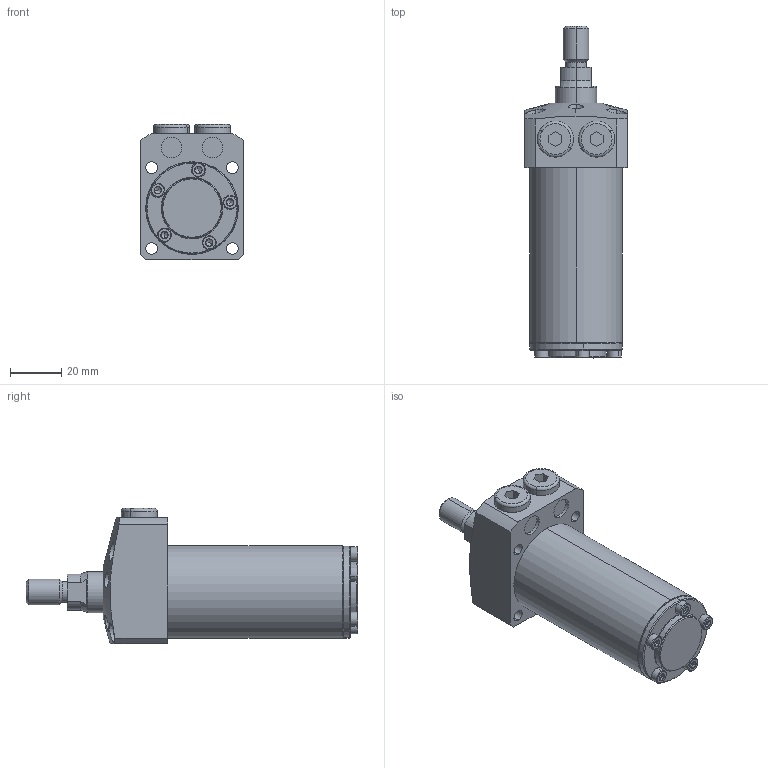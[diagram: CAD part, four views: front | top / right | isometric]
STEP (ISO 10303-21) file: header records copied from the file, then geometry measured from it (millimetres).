
FILE_DESCRIPTION (( 'STEP AP203' ), '1' );
FILE_NAME ('680360-CT-051.step', '2016-11-02T03:16:59', ( 'wxp' ), ( '' ), 'SwSTEP 2.0', 'SolidWorks 2011', '' );
FILE_SCHEMA (( 'CONFIG_CONTROL_DESIGN' ));
Length unit declared in the file: millimetre
Products named in the file (7): 680360-CT-051; 葩璃 68036-51-11^680360-CT-051; 葩璃 68036-15-5^680360-CT-051; 葩璃 68036-51-3^680360-CT-051; 葩璃 68036-15-4^680360-CT-051; 葩璃 68036-15-3^680360-CT-051; 葩璃 68036-51-1^680360-CT-051
Assembly tree (15 placements, depth 2):
  680360-CT-051
    葩璃 68036-15-5^680360-CT-051  x2
    葩璃 68036-51-1^680360-CT-051
    葩璃 68036-51-3^680360-CT-051  x5
    葩璃 68036-15-3^680360-CT-051
    葩璃 68036-15-4^680360-CT-051  x5
    葩璃 68036-51-11^680360-CT-051
Bounding box: 40 x 129 x 52.5 mm (x, y, z)
Volume: 119936.9 mm3; surface area: 30835.4 mm2
Topology: 15 solids, 15 shells, 481 faces, 913 edges, 483 vertices
Faces by surface type: plane 204, cone 144, cylinder 117, torus 16
Entity records: 7099 total; most frequent: CARTESIAN_POINT 1615, DIRECTION 1040, ORIENTED_EDGE 846, AXIS2_PLACEMENT_3D 434, EDGE_CURVE 423, VERTEX_POINT 251, EDGE_LOOP 248, CIRCLE 209
